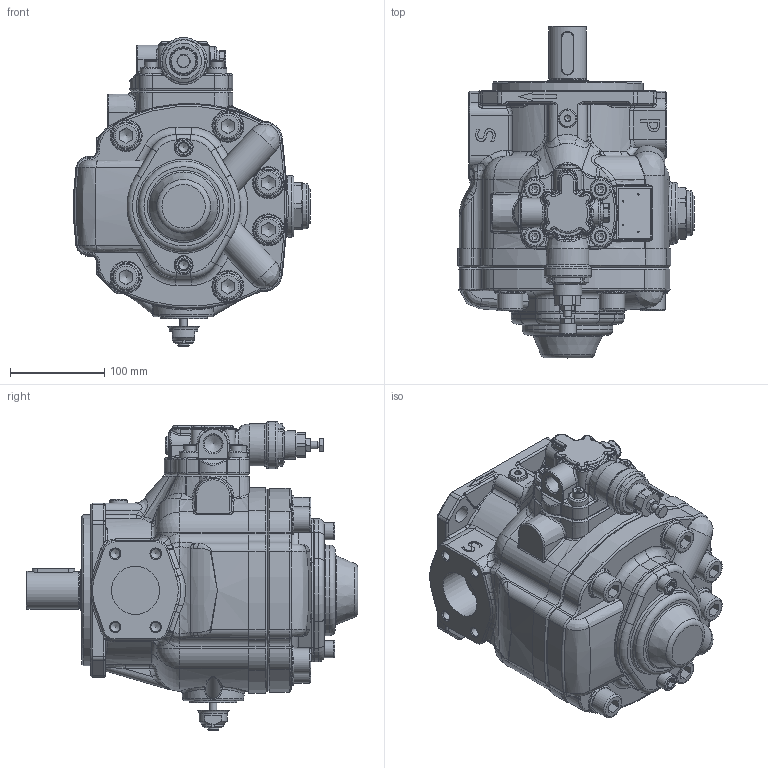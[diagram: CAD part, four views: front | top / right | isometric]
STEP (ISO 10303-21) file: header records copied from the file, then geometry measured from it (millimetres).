
FILE_DESCRIPTION(/* description */ (''),/* implementation_level */ '2;1');
FILE_NAME(/* name */ 'W:\Tecnico\Archivio\Berarma\Dimensioni Pompe\3D Export\Montaggio 3D semplificato\PLP-PHP 3\PHP 3 -A.stp',/* time_stamp */ '2018-10-09T17:24:54+02:00',/* author */ ('marcop'),/* organization */ (''),/* preprocessor_version */ 'ST-DEVELOPER v17',/* originating_system */ 'Autodesk Inventor 2018',/* authorisation */ '');
FILE_SCHEMA (('AUTOMOTIVE_DESIGN { 1 0 10303 214 3 1 1 }'));
Products named in the file (1): PLP-PHP 3_Shrinkwrap_1
Bounding box: 251.18 x 352 x 327.6 mm (x, y, z)
Volume: 6979330 mm3; surface area: 573677.4 mm2
Topology: 2 solids, 2 shells, 1959 faces, 4870 edges, 2945 vertices
Faces by surface type: plane 516, cylinder 488, bspline 460, torus 261, cone 190, sphere 44
Full cylindrical faces by diameter (mm): 1.7 x4, 3 x2, 3.15 x1, 6.5 x1, 8 x2, 8.376 x4, 10.106 x4, 12 x3, 13 x4, 14 x1, 15.5 x1, 18 x6, 18.631 x1, 19 x4, 20 x4, 23 x1, 27 x6, 28 x1, 30 x2, 32 x7, 33.376 x1, 39.4 x1, 40 x3, 42.5 x1, 45 x4, 48 x1, 49.8 x1, 50 x5, 51 x1, 52 x1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
Entity records: 75060 total; most frequent: CARTESIAN_POINT 29295, ORIENTED_EDGE 9588, DIRECTION 8655, EDGE_CURVE 4794, AXIS2_PLACEMENT_3D 3557, VERTEX_POINT 2945, EDGE_LOOP 2075, CIRCLE 2010
